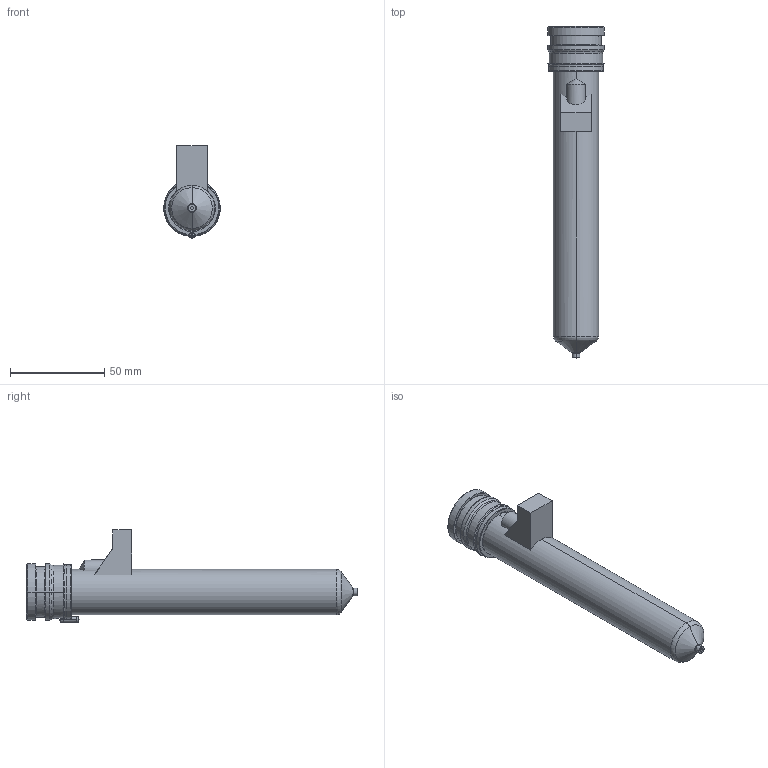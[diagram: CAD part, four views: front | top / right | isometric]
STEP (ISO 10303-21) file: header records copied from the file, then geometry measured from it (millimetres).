
FILE_DESCRIPTION((''),'2;1');
FILE_NAME('MPN-10-29-VP4-156-M','2026-02-05T12:59:25',('UPTIO'),('Thermoplay S.p.A.'),'CREO PARAMETRIC BY PTC INC, 2023494','CREO PARAMETRIC BY PTC INC, 2023494','');
FILE_SCHEMA(('CONFIG_CONTROL_DESIGN','SHAPE_APPEARANCE_LAYERS_GROUPS'));
Length unit declared in the file: millimetre
Products named in the file (1): MPN-10-29-VP4-156-M
Bounding box: 30 x 176.1 x 49 mm (x, y, z)
Volume: 55055.2 mm3; surface area: 56772 mm2
Topology: 3 solids, 5 shells, 570 faces, 1470 edges, 905 vertices
Faces by surface type: cylinder 177, plane 156, bspline 92, torus 69, cone 66, sphere 6, extrusion 4
Entity records: 30846 total; most frequent: CARTESIAN_POINT 14508, ORIENTED_EDGE 2926, DIRECTION 2618, EDGE_CURVE 1463, AXIS2_PLACEMENT_3D 1035, VERTEX_POINT 905, EDGE_LOOP 598, FACE_OUTER_BOUND 570
